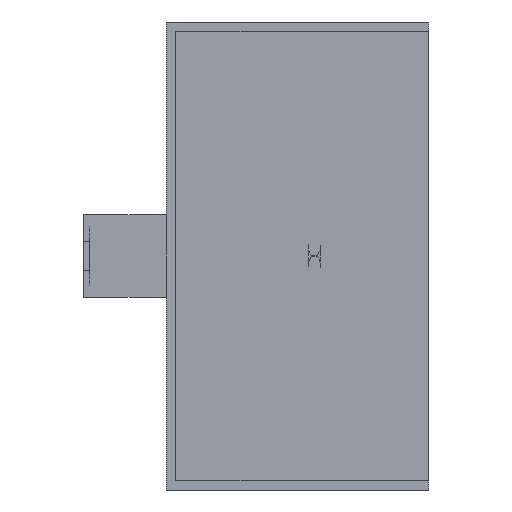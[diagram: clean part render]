
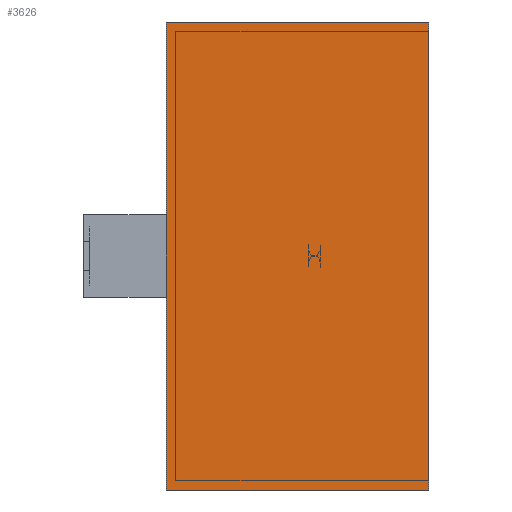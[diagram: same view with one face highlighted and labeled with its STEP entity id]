
A CAD part, left-side view. The second image highlights one B-rep face of the part: STEP entity #3626.
In plain terms, the highlighted planar face has unit normal (-1, 0, 0).
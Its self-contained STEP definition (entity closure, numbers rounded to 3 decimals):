
#961 = VECTOR ( 'NONE', #4319, 1000. ) ;
#2170 = CARTESIAN_POINT ( 'NONE',  ( -65., 0., -37.5 ) ) ;
#2542 = DIRECTION ( 'NONE',  ( 0., 0., 1. ) ) ;
#2784 = EDGE_CURVE ( 'NONE', #4008, #22376, #21482, .T. ) ;
#2829 = CARTESIAN_POINT ( 'NONE',  ( -65., 0., 37.5 ) ) ;
#2899 = DIRECTION ( 'NONE',  ( 0., 0., -1. ) ) ;
#3270 = AXIS2_PLACEMENT_3D ( 'NONE', #17016, #21213, #2899 ) ;
#3626 = ADVANCED_FACE ( 'NONE', ( #15150 ), #22584, .F. ) ;
#4008 = VERTEX_POINT ( 'NONE', #12745 ) ;
#4035 = VECTOR ( 'NONE', #2542, 1000. ) ;
#4311 = EDGE_CURVE ( 'NONE', #13363, #13574, #22530, .T. ) ;
#4319 = DIRECTION ( 'NONE',  ( 0., -1., 0. ) ) ;
#4774 = EDGE_CURVE ( 'NONE', #22376, #13574, #11528, .T. ) ;
#5075 = DIRECTION ( 'NONE',  ( 0., 0., 1. ) ) ;
#6069 = CARTESIAN_POINT ( 'NONE',  ( -65., 42., -37.5 ) ) ;
#6376 = CARTESIAN_POINT ( 'NONE',  ( -65., 0., -37.5 ) ) ;
#6454 = LINE ( 'NONE', #6069, #961 ) ;
#6685 = CARTESIAN_POINT ( 'NONE',  ( -65., 42., -37.5 ) ) ;
#7341 = CARTESIAN_POINT ( 'NONE',  ( -65., 42., 37.5 ) ) ;
#10924 = ORIENTED_EDGE ( 'NONE', *, *, #2784, .F. ) ;
#11528 = LINE ( 'NONE', #7341, #19817 ) ;
#12279 = EDGE_LOOP ( 'NONE', ( #20894, #17400, #10924, #20621 ) ) ;
#12745 = CARTESIAN_POINT ( 'NONE',  ( -65., 42., -37.5 ) ) ;
#13046 = EDGE_CURVE ( 'NONE', #4008, #13363, #6454, .T. ) ;
#13363 = VERTEX_POINT ( 'NONE', #6376 ) ;
#13574 = VERTEX_POINT ( 'NONE', #2829 ) ;
#14227 = VECTOR ( 'NONE', #5075, 1000. ) ;
#15150 = FACE_OUTER_BOUND ( 'NONE', #12279, .T. ) ;
#17016 = CARTESIAN_POINT ( 'NONE',  ( -65., 42., -37.5 ) ) ;
#17400 = ORIENTED_EDGE ( 'NONE', *, *, #4774, .F. ) ;
#18013 = DIRECTION ( 'NONE',  ( 0., -1., 0. ) ) ;
#19817 = VECTOR ( 'NONE', #18013, 1000. ) ;
#20621 = ORIENTED_EDGE ( 'NONE', *, *, #13046, .T. ) ;
#20894 = ORIENTED_EDGE ( 'NONE', *, *, #4311, .T. ) ;
#20901 = CARTESIAN_POINT ( 'NONE',  ( -65., 42., 37.5 ) ) ;
#21213 = DIRECTION ( 'NONE',  ( 1., 0., 0. ) ) ;
#21482 = LINE ( 'NONE', #6685, #14227 ) ;
#22376 = VERTEX_POINT ( 'NONE', #20901 ) ;
#22530 = LINE ( 'NONE', #2170, #4035 ) ;
#22584 = PLANE ( 'NONE',  #3270 ) ;
